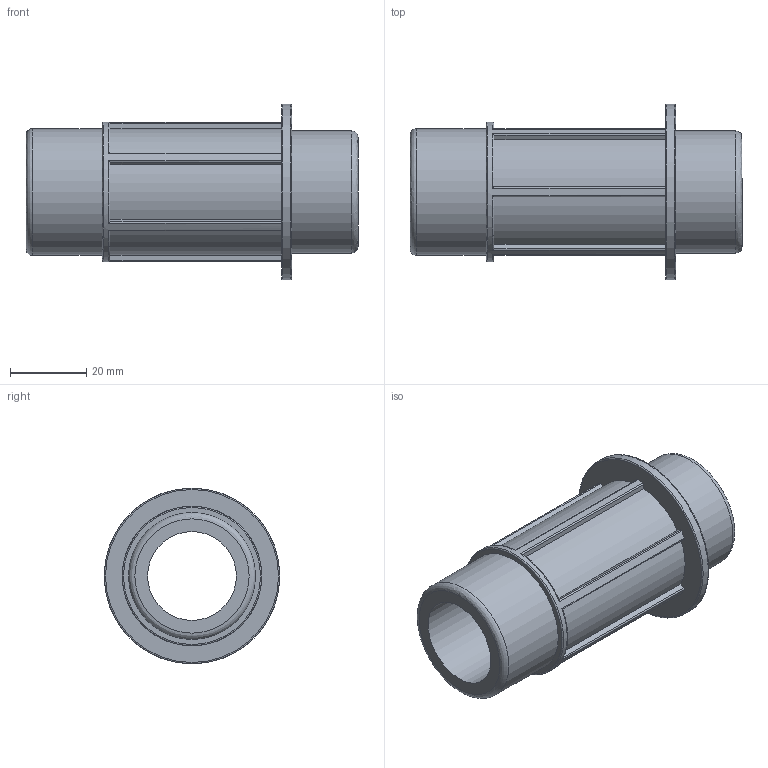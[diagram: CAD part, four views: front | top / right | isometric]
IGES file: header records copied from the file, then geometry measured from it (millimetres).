
Global section: file name: 078901032010.ipt; native system: Autodesk Inventor 2015; preprocessor: unknown; author: KIM; date: 20180409.130852; units: millimetre
Bounding box: 87 x 46 x 46 mm (x, y, z)
Volume: 40899.8 mm3; surface area: 18904 mm2
Topology: 1 solids, 1 shells, 57 faces, 163 edges, 111 vertices
Faces by surface type: plane 23, cylinder 22, revolution 12
Full cylindrical faces by diameter (mm): 32 x1, 33.249 x1, 36.574 x1, 46 x1
